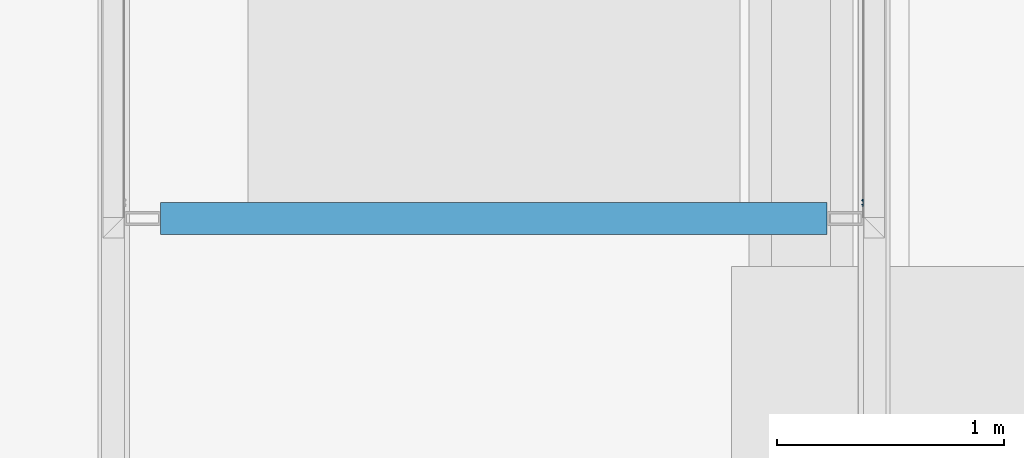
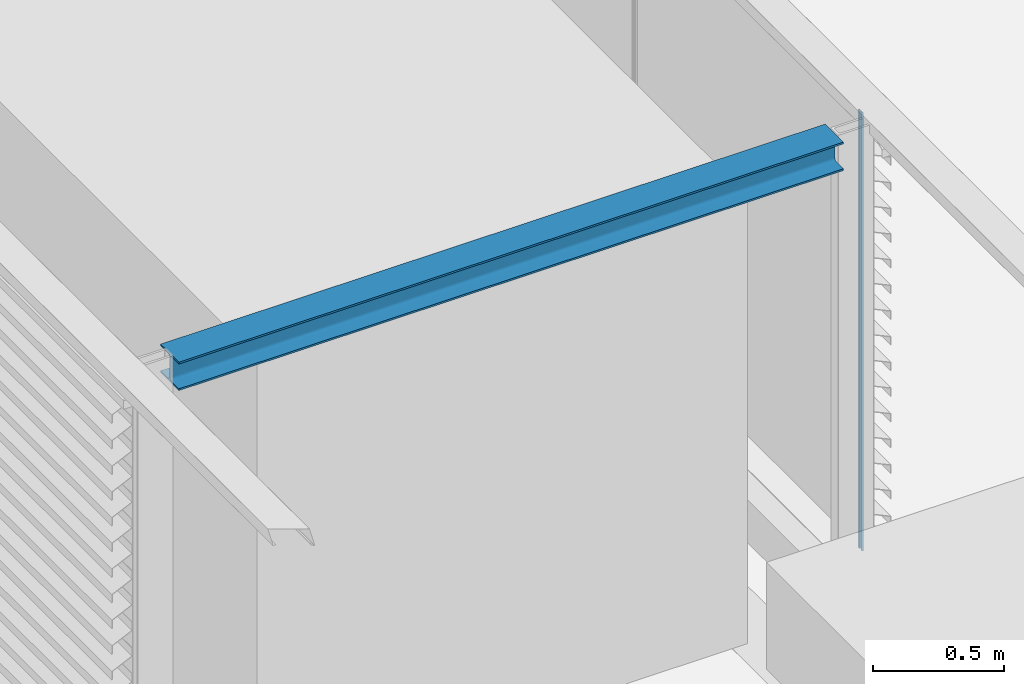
# One storey, part 6 of 32: 1 beam, 1 member, 1 element without a shape of its own.
"""IFC2X3 building model written with IfcOpenShell, lengths in millimetres."""

from ifc_helpers import new_model, entity, si_unit, converted_unit, derived_unit, direction, frame, frame_2d, origin, place, context, subcontext, project, spatial, polyline, circle_curve, parameter, trimmed, segment, composite_curve, i_section, outline, extrude, source, transform, mapped, material, type_object, type_shapes, element, aggregate, save


model = new_model("IFC2X3")

# Units and contexts
model_context = context("Model", 3, precision=0.01, world=origin(), true_north=direction((6.123031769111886e-17, 1.0)))
body_context = subcontext(model_context, "Body", "Model", "MODEL_VIEW")
ifc_project = project(units=[si_unit("LENGTHUNIT", "METRE", prefix="MILLI"), si_unit("AREAUNIT", "SQUARE_METRE"), si_unit("VOLUMEUNIT", "CUBIC_METRE"), converted_unit("PLANEANGLEUNIT", "DEGREE", entity("IfcRatioMeasure", 0.017453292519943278), si_unit("PLANEANGLEUNIT", "RADIAN"), dimensions=[0, 0, 0, 0, 0, 0, 0]), si_unit("MASSUNIT", "GRAM", prefix="KILO"), derived_unit("MASSDENSITYUNIT", [(si_unit("MASSUNIT", "GRAM", prefix="KILO"), 1), (si_unit("LENGTHUNIT", "METRE"), -3)]), derived_unit("IONCONCENTRATIONUNIT", [(si_unit("MASSUNIT", "GRAM", prefix="KILO"), 1), (si_unit("LENGTHUNIT", "METRE"), -3)]), derived_unit("MOMENTOFINERTIAUNIT", [(si_unit("LENGTHUNIT", "METRE"), 4)]), si_unit("TIMEUNIT", "SECOND"), si_unit("FREQUENCYUNIT", "HERTZ"), si_unit("THERMODYNAMICTEMPERATUREUNIT", "DEGREE_CELSIUS"), derived_unit("THERMALTRANSMITTANCEUNIT", [(si_unit("MASSUNIT", "GRAM", prefix="KILO"), 1), (si_unit("THERMODYNAMICTEMPERATUREUNIT", "KELVIN"), -1), (si_unit("TIMEUNIT", "SECOND"), -3)]), derived_unit("THERMALCONDUCTANCEUNIT", [(si_unit("MASSUNIT", "GRAM", prefix="KILO"), 1), (si_unit("THERMODYNAMICTEMPERATUREUNIT", "KELVIN"), -1), (si_unit("TIMEUNIT", "SECOND"), -3), (si_unit("LENGTHUNIT", "METRE"), 1)]), derived_unit("VOLUMETRICFLOWRATEUNIT", [(si_unit("LENGTHUNIT", "METRE"), 3), (si_unit("TIMEUNIT", "SECOND"), -1)]), derived_unit("MASSFLOWRATEUNIT", [(si_unit("MASSUNIT", "GRAM", prefix="KILO"), 1), (si_unit("TIMEUNIT", "SECOND"), -1)]), derived_unit("ROTATIONALFREQUENCYUNIT", [(si_unit("TIMEUNIT", "SECOND"), -1)]), si_unit("ELECTRICCURRENTUNIT", "AMPERE"), si_unit("ELECTRICVOLTAGEUNIT", "VOLT"), si_unit("POWERUNIT", "WATT"), si_unit("FORCEUNIT", "NEWTON", prefix="KILO"), si_unit("ILLUMINANCEUNIT", "LUX"), si_unit("LUMINOUSFLUXUNIT", "LUMEN"), si_unit("LUMINOUSINTENSITYUNIT", "CANDELA"), derived_unit("USERDEFINED", [(si_unit("MASSUNIT", "GRAM", prefix="KILO"), -1), (si_unit("LENGTHUNIT", "METRE"), -2), (si_unit("TIMEUNIT", "SECOND"), 3), (si_unit("LUMINOUSFLUXUNIT", "LUMEN"), 1)]), derived_unit("USERDEFINED", [(si_unit("MASSUNIT", "GRAM", prefix="KILO"), 1), (si_unit("TIMEUNIT", "SECOND"), -3), (si_unit("LENGTHUNIT", "METRE"), 3), (si_unit("ELECTRICCURRENTUNIT", "AMPERE"), -2)]), derived_unit("SOUNDPOWERUNIT", [(si_unit("MASSUNIT", "GRAM", prefix="KILO"), 1), (si_unit("TIMEUNIT", "SECOND"), -3), (si_unit("LENGTHUNIT", "METRE"), 2)]), derived_unit("SOUNDPRESSUREUNIT", [(si_unit("MASSUNIT", "GRAM", prefix="KILO"), 1), (si_unit("LENGTHUNIT", "METRE"), -1), (si_unit("TIMEUNIT", "SECOND"), -2)]), derived_unit("LINEARVELOCITYUNIT", [(si_unit("LENGTHUNIT", "METRE"), 1), (si_unit("TIMEUNIT", "SECOND"), -1)]), si_unit("PRESSUREUNIT", "PASCAL"), derived_unit("USERDEFINED", [(si_unit("MASSUNIT", "GRAM", prefix="KILO"), 1), (si_unit("LENGTHUNIT", "METRE"), -2), (si_unit("TIMEUNIT", "SECOND"), -2)]), derived_unit("LINEARFORCEUNIT", [(si_unit("MASSUNIT", "GRAM", prefix="KILO"), 1), (si_unit("TIMEUNIT", "SECOND"), -2)]), derived_unit("PLANARFORCEUNIT", [(si_unit("MASSUNIT", "GRAM", prefix="KILO"), 1), (si_unit("LENGTHUNIT", "METRE"), -1), (si_unit("TIMEUNIT", "SECOND"), -2)]), derived_unit("SPECIFICHEATCAPACITYUNIT", [(si_unit("THERMODYNAMICTEMPERATUREUNIT", "KELVIN"), -1), (si_unit("LENGTHUNIT", "METRE"), 2), (si_unit("TIMEUNIT", "SECOND"), -2)]), derived_unit("HEATINGVALUEUNIT", [(si_unit("LENGTHUNIT", "METRE"), 2), (si_unit("TIMEUNIT", "SECOND"), -2)]), derived_unit("VAPORPERMEABILITYUNIT", [(si_unit("LENGTHUNIT", "METRE"), -1), (si_unit("TIMEUNIT", "SECOND"), 1)]), derived_unit("DYNAMICVISCOSITYUNIT", [(si_unit("MASSUNIT", "GRAM", prefix="KILO"), 1), (si_unit("TIMEUNIT", "SECOND"), -1), (si_unit("LENGTHUNIT", "METRE"), -1)]), derived_unit("THERMALEXPANSIONCOEFFICIENTUNIT", [(si_unit("THERMODYNAMICTEMPERATUREUNIT", "KELVIN"), -1)]), derived_unit("MODULUSOFELASTICITYUNIT", [(si_unit("MASSUNIT", "GRAM", prefix="KILO"), 1), (si_unit("LENGTHUNIT", "METRE"), -1), (si_unit("TIMEUNIT", "SECOND"), -2)]), derived_unit("ISOTHERMALMOISTURECAPACITYUNIT", [(si_unit("LENGTHUNIT", "METRE"), 3), (si_unit("MASSUNIT", "GRAM", prefix="KILO"), -1)]), derived_unit("MOISTUREDIFFUSIVITYUNIT", [(si_unit("TIMEUNIT", "SECOND"), -1), (si_unit("LENGTHUNIT", "METRE"), 2)])], contexts=[model_context])

# Site, building, storey
site_placement = place(None, frame((0.0, 300.0, 0.0)))
site = spatial("IfcSite", under=ifc_project, at=site_placement, Name="<Kadastrale nummers>", CompositionType="ELEMENT")
building_placement = place(site_placement, origin())
building = spatial("IfcBuilding", under=site, at=building_placement, CompositionType="ELEMENT")
storey_placement = place(building_placement, frame((0.0, 0.0, 7150.000035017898)))
storey = spatial("IfcBuildingStorey", under=building, at=storey_placement, Name="02 tweede verdieping", CompositionType="ELEMENT", Elevation=7150.000035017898)

# Beam
ifc_material_1 = material(Name="h2_staal S235")
beam_type = type_object("IfcBeamType", Name="NLRS_28_SF_LIB_balk hea -SH_gen_ISR:balk gen hea140", PredefinedType="BEAM")
beam_placement = place(storey_placement, frame((39706.99978599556, 31800.0, 2409.9999649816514)))
element("IfcBeam", 1, at=beam_placement, inside=storey, type_object=beam_type, material=ifc_material_1, Name="NLRS_28_SF_LIB_balk hea -SH_gen_ISR:balk gen hea140", ObjectType="NLRS_28_SF_LIB_balk hea -SH_gen_ISR:balk gen hea140", context=body_context, shape_type="SweptSolid", body=[
    extrude(i_section(OverallWidth=140.0000000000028, OverallDepth=133.00000000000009, WebThickness=5.4999999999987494, FlangeThickness=8.500000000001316, FilletRadius=12.000000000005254, at=frame_2d((-1.0800249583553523e-12, -6.494360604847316e-12), x_axis=(0.0, 1.0))), frame((-1131.9997859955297, 0.0, 66.49999999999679), z_axis=(1.0, 0.0, 0.0), x_axis=(0.0, 0.0, -1.0)), (0.0, 0.0, 1.0), 2939.9999999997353),
])

# Curtain wall, member
curtain_wall_type = type_object("IfcCurtainWallType", Name="Curtain Wall:NLRS_21_CWA_lamellenwand Linius - L.120 met LD.0065_Storax", PredefinedType="NOTDEFINED")
curtain_wall_placement = place(storey_placement, frame((0.0, 0.0, -7150.000035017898)))
curtain_wall = element("IfcCurtainWall", 2, at=curtain_wall_placement, inside=storey, type_object=curtain_wall_type, Name="Curtain Wall:NLRS_21_CWA_lamellenwand Linius - L.120 met LD.0065_Storax", ObjectType="Curtain Wall:NLRS_21_CWA_lamellenwand Linius - L.120 met LD.0065_Storax")
ifc_material_2 = material(Name="STAAL_RAL 7006")
member_type = type_object("IfcMemberType", Name="Rectangular Mullion:NLRS_21_CWM_drager LD.0065 - links_Storax", PredefinedType="MULLION", material=ifc_material_2)
shared_shape = source(origin(), body_context, "Body", "SweptSolid", [
    extrude(outline(composite_curve([segment(polyline([(-1.4234637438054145, -14.998975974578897), (3.6968340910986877, -14.998975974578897)]), True, "CONTINUOUS"), segment(polyline([(3.6968340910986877, -14.998975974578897), (3.6968340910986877, 15.00102402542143)]), True, "CONTINUOUS"), segment(polyline([(3.6968340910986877, 15.00102402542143), (-1.4234637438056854, 15.00102402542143)]), True, "CONTINUOUS"), segment(trimmed(circle_curve(frame_2d((-1.423463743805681, 14.001024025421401), x_axis=(0.0, 1.0)), 1.0000000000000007), [parameter(0.0)], [parameter(241.34010185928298)], True, "PARAMETER"), True, "CONTINUOUS"), segment(polyline([(-0.5459816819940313, 13.521414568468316), (2.196834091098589, 13.521414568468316)]), True, "CONTINUOUS"), segment(polyline([(2.196834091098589, 13.521414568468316), (2.196834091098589, 9.648596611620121)]), True, "CONTINUOUS"), segment(polyline([(2.196834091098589, 9.648596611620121), (-2.80316590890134, 9.648596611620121)]), True, "CONTINUOUS"), segment(polyline([(-2.80316590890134, 9.648596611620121), (-2.80316590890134, 7.887964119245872)]), True, "CONTINUOUS"), segment(polyline([(-2.80316590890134, 7.887964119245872), (-1.603120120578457, 7.887964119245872)]), True, "CONTINUOUS"), segment(polyline([(-1.603120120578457, 7.887964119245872), (-1.603120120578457, 6.348596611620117)]), True, "CONTINUOUS"), segment(polyline([(-1.603120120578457, 6.348596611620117), (0.24734056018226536, 6.348596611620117)]), True, "CONTINUOUS"), segment(polyline([(0.24734056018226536, 6.348596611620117), (0.24734056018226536, 7.887964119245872)]), True, "CONTINUOUS"), segment(polyline([(0.24734056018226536, 7.887964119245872), (2.196834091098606, 7.887964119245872)]), True, "CONTINUOUS"), segment(polyline([(2.196834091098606, 7.887964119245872), (2.196834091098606, -7.8859160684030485)]), True, "CONTINUOUS"), segment(polyline([(2.196834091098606, -7.8859160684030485), (0.24734056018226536, -7.8859160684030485)]), True, "CONTINUOUS"), segment(polyline([(0.24734056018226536, -7.8859160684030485), (0.24734056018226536, -6.358836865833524)]), True, "CONTINUOUS"), segment(polyline([(0.24734056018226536, -6.358836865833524), (-1.603120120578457, -6.358836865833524)]), True, "CONTINUOUS"), segment(polyline([(-1.603120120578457, -6.358836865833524), (-1.603120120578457, -7.8859160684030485)]), True, "CONTINUOUS"), segment(polyline([(-1.603120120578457, -7.8859160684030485), (-2.8031659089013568, -7.8859160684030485)]), True, "CONTINUOUS"), segment(polyline([(-2.8031659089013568, -7.8859160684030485), (-2.8031659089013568, -9.646548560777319)]), True, "CONTINUOUS"), segment(polyline([(-2.8031659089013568, -9.646548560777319), (2.1968340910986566, -9.646548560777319)]), True, "CONTINUOUS"), segment(polyline([(2.1968340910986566, -9.646548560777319), (2.1968340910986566, -13.519366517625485)]), True, "CONTINUOUS"), segment(polyline([(2.1968340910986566, -13.519366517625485), (-0.5459816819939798, -13.519366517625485)]), True, "CONTINUOUS"), segment(trimmed(circle_curve(frame_2d((-1.4234637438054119, -13.998975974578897), x_axis=(0.8774820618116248, 0.4796094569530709)), 0.9999999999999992), [parameter(0.0)], [parameter(241.34010185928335)], True, "PARAMETER"), True, "CONTINUOUS")], self_intersect=False)), frame((-65.00102402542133, 4.6968340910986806, -2049.999964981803), z_axis=(0.0, 0.0, 1.0), x_axis=(0.0, -1.0, 0.0)), (0.0, 0.0, 1.0), 2049.999964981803),
])
type_shapes(member_type, [shared_shape])
member_placement = place(curtain_wall_placement, frame((41676.0, 31805.0, 7650.000035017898), z_axis=(0.0, 0.0, -1.0), x_axis=(0.0, -1.0, 0.0)))
member = element("IfcMember", 3, at=member_placement, type_object=member_type, material=ifc_material_2, Name="Rectangular Mullion:NLRS_21_CWM_drager LD.0065 - links_Storax", ObjectType="Rectangular Mullion:NLRS_21_CWM_drager LD.0065 - links_Storax", context=body_context, shape_type="MappedRepresentation", body=[
    mapped(shared_shape, transform((0.0, 0.0, 0.0), scale=1.0)),
])
aggregate(curtain_wall, [member])

save(model, "model.ifc")
